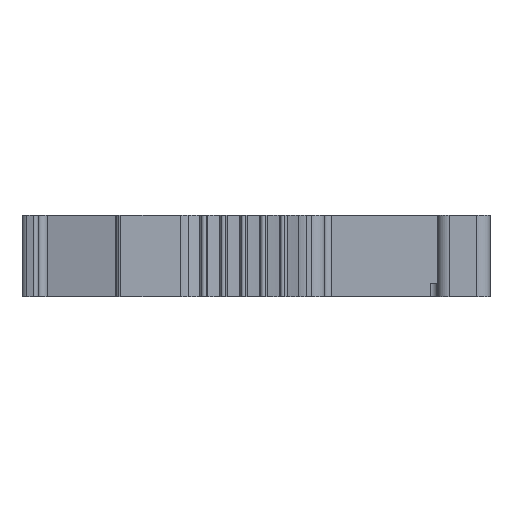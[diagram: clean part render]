
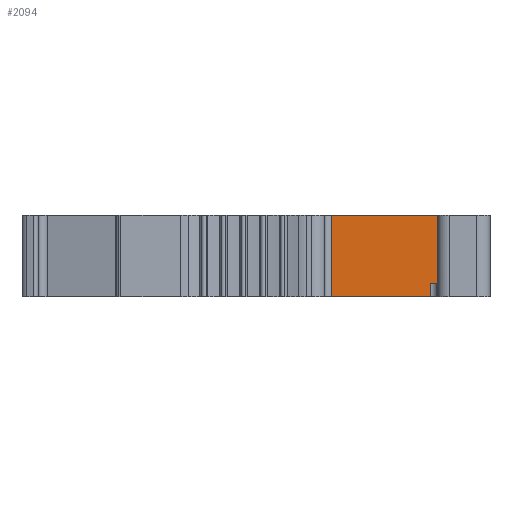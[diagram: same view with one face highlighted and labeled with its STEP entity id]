
A CAD part, left-side view. The second image highlights one B-rep face of the part: STEP entity #2094.
In plain terms, the highlighted planar face has unit normal (-1, 0, 0).
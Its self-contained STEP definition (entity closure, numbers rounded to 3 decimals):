
#2094=ADVANCED_FACE('',(#2506),#2350,.T.);
#2350=PLANE('',#7062);
#2506=FACE_OUTER_BOUND('',#2773,.T.);
#2773=EDGE_LOOP('',(#3475,#3476,#3477,#3478,#3479,#3480));
#3475=ORIENTED_EDGE('',*,*,#5335,.F.);
#3476=ORIENTED_EDGE('',*,*,#5480,.F.);
#3477=ORIENTED_EDGE('',*,*,#5481,.T.);
#3478=ORIENTED_EDGE('',*,*,#5482,.F.);
#3479=ORIENTED_EDGE('',*,*,#5208,.T.);
#3480=ORIENTED_EDGE('',*,*,#5483,.T.);
#4686=VERTEX_POINT('',#9030);
#4687=VERTEX_POINT('',#9032);
#4802=VERTEX_POINT('',#9281);
#4803=VERTEX_POINT('',#9282);
#4943=VERTEX_POINT('',#9569);
#4944=VERTEX_POINT('',#9571);
#5208=EDGE_CURVE('',#4687,#4686,#5939,.T.);
#5335=EDGE_CURVE('',#4802,#4803,#6017,.T.);
#5480=EDGE_CURVE('',#4943,#4802,#6094,.T.);
#5481=EDGE_CURVE('',#4943,#4944,#6095,.T.);
#5482=EDGE_CURVE('',#4687,#4944,#6096,.T.);
#5483=EDGE_CURVE('',#4686,#4803,#6097,.T.);
#5939=LINE('',#9031,#6471);
#6017=LINE('',#9280,#6549);
#6094=LINE('',#9568,#6626);
#6095=LINE('',#9570,#6627);
#6096=LINE('',#9572,#6628);
#6097=LINE('',#9573,#6629);
#6471=VECTOR('',#7523,1.);
#6549=VECTOR('',#7713,1.);
#6626=VECTOR('',#7930,1.);
#6627=VECTOR('',#7931,1.);
#6628=VECTOR('',#7932,1.);
#6629=VECTOR('',#7933,1.);
#7062=AXIS2_PLACEMENT_3D('',#9574,#7934,#7935);
#7523=DIRECTION('',(0.,1.,0.));
#7713=DIRECTION('',(0.,1.,0.));
#7930=DIRECTION('',(0.,0.,-1.));
#7931=DIRECTION('',(0.,-1.,0.));
#7932=DIRECTION('',(0.,0.,-1.));
#7933=DIRECTION('',(0.,0.,-1.));
#7934=DIRECTION('',(-1.,0.,0.));
#7935=DIRECTION('',(0.,0.,1.));
#9030=CARTESIAN_POINT('',(1435.768,248.224,6.2));
#9031=CARTESIAN_POINT('',(1435.768,240.724,6.2));
#9032=CARTESIAN_POINT('',(1435.768,238.224,6.2));
#9280=CARTESIAN_POINT('',(1435.768,240.724,0.));
#9281=CARTESIAN_POINT('',(1435.768,240.724,0.));
#9282=CARTESIAN_POINT('',(1435.768,248.224,0.));
#9568=CARTESIAN_POINT('',(1435.768,240.724,6.2));
#9569=CARTESIAN_POINT('',(1435.768,240.724,1.));
#9570=CARTESIAN_POINT('',(1435.768,240.724,1.));
#9571=CARTESIAN_POINT('',(1435.768,238.224,1.));
#9572=CARTESIAN_POINT('',(1435.768,238.224,6.2));
#9573=CARTESIAN_POINT('',(1435.768,248.224,6.2));
#9574=CARTESIAN_POINT('',(1435.768,240.724,6.2));
